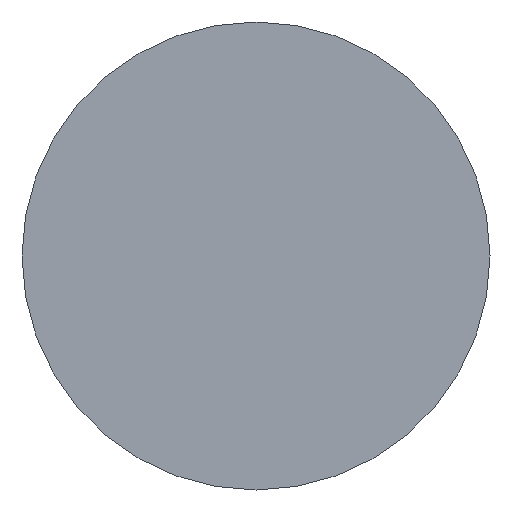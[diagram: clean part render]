
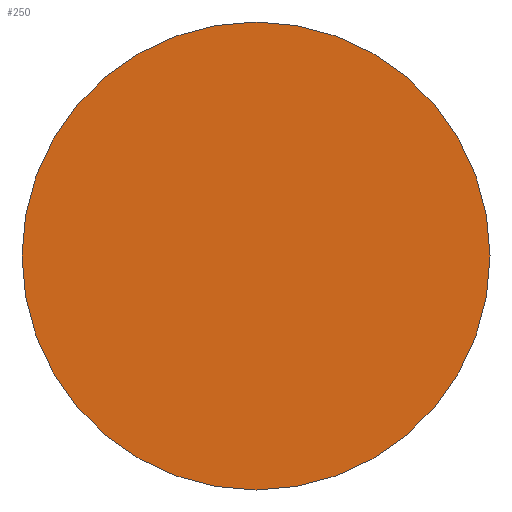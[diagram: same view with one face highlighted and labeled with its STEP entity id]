
A CAD part, left-side view. The second image highlights one B-rep face of the part: STEP entity #250.
In plain terms, the highlighted planar face has unit normal (-1, 0, 0).
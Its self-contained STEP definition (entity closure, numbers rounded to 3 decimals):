
#9 = DIRECTION ( 'NONE',  ( 0., 1., 0. ) ) ;
#20 = CARTESIAN_POINT ( 'NONE',  ( 0., 0., 0. ) ) ;
#29 = CIRCLE ( 'NONE', #215, 7. ) ;
#46 = VERTEX_POINT ( 'NONE', #235 ) ;
#61 = CIRCLE ( 'NONE', #156, 7. ) ;
#71 = ORIENTED_EDGE ( 'NONE', *, *, #196, .F. ) ;
#95 = EDGE_LOOP ( 'NONE', ( #71, #227 ) ) ;
#98 = DIRECTION ( 'NONE',  ( 1., 0., 0. ) ) ;
#100 = CARTESIAN_POINT ( 'NONE',  ( 0., 0., 0. ) ) ;
#102 = DIRECTION ( 'NONE',  ( 1., 0., 0. ) ) ;
#106 = FACE_OUTER_BOUND ( 'NONE', #95, .T. ) ;
#113 = AXIS2_PLACEMENT_3D ( 'NONE', #100, #187, #206 ) ;
#150 = VERTEX_POINT ( 'NONE', #207 ) ;
#156 = AXIS2_PLACEMENT_3D ( 'NONE', #20, #98, #9 ) ;
#159 = PLANE ( 'NONE',  #113 ) ;
#187 = DIRECTION ( 'NONE',  ( -1., 0., 0. ) ) ;
#196 = EDGE_CURVE ( 'NONE', #150, #46, #61, .T. ) ;
#205 = CARTESIAN_POINT ( 'NONE',  ( 0., 0., 0. ) ) ;
#206 = DIRECTION ( 'NONE',  ( 0., -1., 0. ) ) ;
#207 = CARTESIAN_POINT ( 'NONE',  ( 0., 7., 0. ) ) ;
#215 = AXIS2_PLACEMENT_3D ( 'NONE', #205, #102, #263 ) ;
#227 = ORIENTED_EDGE ( 'NONE', *, *, #246, .F. ) ;
#235 = CARTESIAN_POINT ( 'NONE',  ( 0., -7., 0. ) ) ;
#246 = EDGE_CURVE ( 'NONE', #46, #150, #29, .T. ) ;
#250 = ADVANCED_FACE ( 'NONE', ( #106 ), #159, .T. ) ;
#263 = DIRECTION ( 'NONE',  ( 0., 1., 0. ) ) ;
